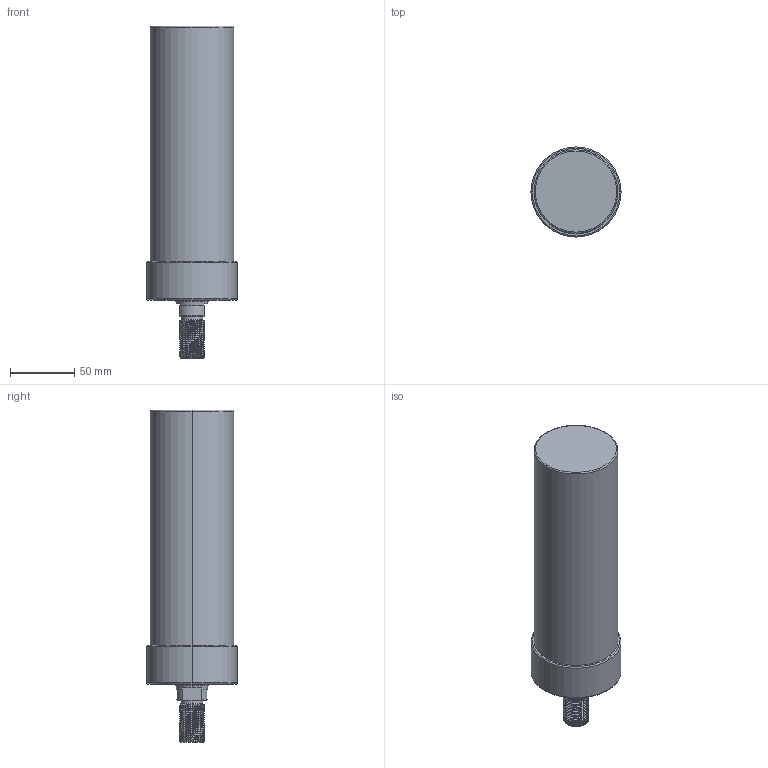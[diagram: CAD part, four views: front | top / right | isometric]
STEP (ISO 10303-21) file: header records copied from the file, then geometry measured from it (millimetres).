
FILE_DESCRIPTION (( 'STEP AP203' ), '1' );
FILE_NAME ('CLLU-065GT-150.STEP', '2020-01-16T02:22:50', ( '' ), ( '' ), 'SwSTEP 2.0', 'SolidWorks 2015', '' );
FILE_SCHEMA (( 'CONFIG_CONTROL_DESIGN' ));
Length unit declared in the file: millimetre
Products named in the file (1): CLLU-065GT-150
Bounding box: 70 x 70 x 258 mm (x, y, z)
Volume: 735402.6 mm3; surface area: 56833.3 mm2
Topology: 1 solids, 1 shells, 105 faces, 267 edges, 165 vertices
Faces by surface type: cylinder 60, cone 26, plane 11, torus 6, bspline 2
Entity records: 5365 total; most frequent: CARTESIAN_POINT 3007, ORIENTED_EDGE 518, DIRECTION 448, EDGE_CURVE 259, AXIS2_PLACEMENT_3D 180, VERTEX_POINT 165, EDGE_LOOP 114, FACE_OUTER_BOUND 105
